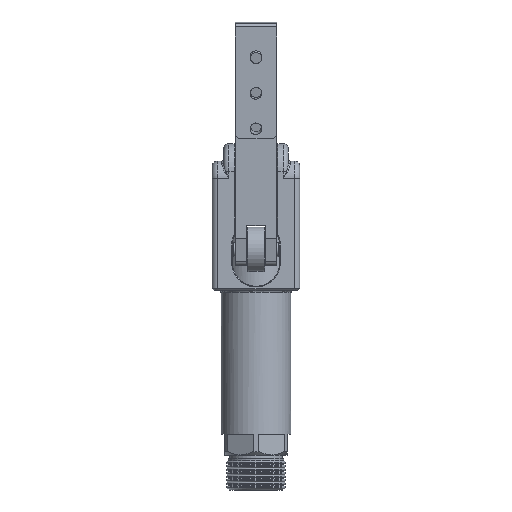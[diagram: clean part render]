
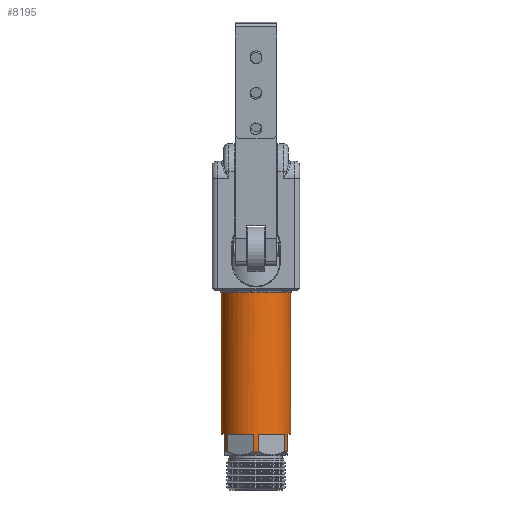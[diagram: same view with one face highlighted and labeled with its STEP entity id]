
A CAD part, front view. The second image highlights one B-rep face of the part: STEP entity #8195.
In plain terms, the highlighted cylindrical face has radius 10 mm (diameter 20 mm), a full revolution.
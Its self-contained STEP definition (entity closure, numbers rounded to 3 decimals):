
#1505=LINE('',#32190,#4221);
#1507=LINE('',#32194,#4223);
#1508=LINE('',#32201,#4224);
#1510=LINE('',#32205,#4226);
#1511=LINE('',#32226,#4227);
#1513=LINE('',#32230,#4229);
#1514=LINE('',#32232,#4230);
#1516=LINE('',#32236,#4232);
#1517=LINE('',#32238,#4233);
#1519=LINE('',#32242,#4235);
#1520=LINE('',#32248,#4236);
#1522=LINE('',#32252,#4238);
#4221=VECTOR('',#26034,1.);
#4223=VECTOR('',#26036,1.);
#4224=VECTOR('',#26039,1.);
#4226=VECTOR('',#26041,1.);
#4227=VECTOR('',#26052,1.);
#4229=VECTOR('',#26054,1.);
#4230=VECTOR('',#26057,1.);
#4232=VECTOR('',#26059,1.);
#4233=VECTOR('',#26062,1.);
#4235=VECTOR('',#26064,1.);
#4236=VECTOR('',#26075,1.);
#4238=VECTOR('',#26077,1.);
#8195=ADVANCED_FACE('',(#9583,#9584),#9377,.T.);
#9377=CYLINDRICAL_SURFACE('',#24450,10.);
#9583=FACE_BOUND('',#10054,.T.);
#9584=FACE_BOUND('',#10055,.T.);
#10054=EDGE_LOOP('',(#12009));
#10055=EDGE_LOOP('',(#12010,#12011,#12012,#12013,#12014,#12015,#12016,#12017,
#12018,#12019,#12020,#12021,#12022,#12023,#12024,#12025,#12026,#12027,#12028,
#12029,#12030,#12031,#12032,#12033));
#12009=ORIENTED_EDGE('',*,*,#20720,.T.);
#12010=ORIENTED_EDGE('',*,*,#20424,.T.);
#12011=ORIENTED_EDGE('',*,*,#20406,.F.);
#12012=ORIENTED_EDGE('',*,*,#20410,.F.);
#12013=ORIENTED_EDGE('',*,*,#20427,.T.);
#12014=ORIENTED_EDGE('',*,*,#20431,.T.);
#12015=ORIENTED_EDGE('',*,*,#20425,.T.);
#12016=ORIENTED_EDGE('',*,*,#20413,.F.);
#12017=ORIENTED_EDGE('',*,*,#20416,.F.);
#12018=ORIENTED_EDGE('',*,*,#20428,.T.);
#12019=ORIENTED_EDGE('',*,*,#20414,.F.);
#12020=ORIENTED_EDGE('',*,*,#20395,.T.);
#12021=ORIENTED_EDGE('',*,*,#20419,.F.);
#12022=ORIENTED_EDGE('',*,*,#20429,.T.);
#12023=ORIENTED_EDGE('',*,*,#20417,.F.);
#12024=ORIENTED_EDGE('',*,*,#20398,.T.);
#12025=ORIENTED_EDGE('',*,*,#20422,.F.);
#12026=ORIENTED_EDGE('',*,*,#20430,.T.);
#12027=ORIENTED_EDGE('',*,*,#20420,.F.);
#12028=ORIENTED_EDGE('',*,*,#20401,.T.);
#12029=ORIENTED_EDGE('',*,*,#20404,.F.);
#12030=ORIENTED_EDGE('',*,*,#20423,.T.);
#12031=ORIENTED_EDGE('',*,*,#20402,.F.);
#12032=ORIENTED_EDGE('',*,*,#20390,.T.);
#12033=ORIENTED_EDGE('',*,*,#20408,.F.);
#18124=VERTEX_POINT('',#32147);
#18125=VERTEX_POINT('',#32149);
#18127=VERTEX_POINT('',#32158);
#18128=VERTEX_POINT('',#32163);
#18129=VERTEX_POINT('',#32170);
#18130=VERTEX_POINT('',#32175);
#18131=VERTEX_POINT('',#32182);
#18132=VERTEX_POINT('',#32187);
#18133=VERTEX_POINT('',#32191);
#18134=VERTEX_POINT('',#32193);
#18135=VERTEX_POINT('',#32200);
#18136=VERTEX_POINT('',#32202);
#18137=VERTEX_POINT('',#32204);
#18138=VERTEX_POINT('',#32211);
#18139=VERTEX_POINT('',#32218);
#18140=VERTEX_POINT('',#32223);
#18141=VERTEX_POINT('',#32227);
#18142=VERTEX_POINT('',#32229);
#18143=VERTEX_POINT('',#32233);
#18144=VERTEX_POINT('',#32235);
#18145=VERTEX_POINT('',#32239);
#18146=VERTEX_POINT('',#32241);
#18147=VERTEX_POINT('',#32249);
#18148=VERTEX_POINT('',#32251);
#18329=VERTEX_POINT('',#33611);
#20390=EDGE_CURVE('',#18125,#18124,#23766,.T.);
#20395=EDGE_CURVE('',#18127,#18128,#23768,.T.);
#20398=EDGE_CURVE('',#18129,#18130,#23769,.T.);
#20401=EDGE_CURVE('',#18131,#18132,#23770,.T.);
#20402=EDGE_CURVE('',#18125,#18133,#1505,.T.);
#20404=EDGE_CURVE('',#18134,#18132,#1507,.T.);
#20406=EDGE_CURVE('',#18135,#18136,#1508,.T.);
#20408=EDGE_CURVE('',#18137,#18124,#1510,.T.);
#20410=EDGE_CURVE('',#18138,#18135,#23771,.T.);
#20413=EDGE_CURVE('',#18140,#18139,#23772,.T.);
#20414=EDGE_CURVE('',#18127,#18141,#1511,.T.);
#20416=EDGE_CURVE('',#18142,#18140,#1513,.T.);
#20417=EDGE_CURVE('',#18129,#18143,#1514,.T.);
#20419=EDGE_CURVE('',#18144,#18128,#1516,.T.);
#20420=EDGE_CURVE('',#18131,#18145,#1517,.T.);
#20422=EDGE_CURVE('',#18146,#18130,#1519,.T.);
#20423=EDGE_CURVE('',#18134,#18133,#23773,.T.);
#20424=EDGE_CURVE('',#18137,#18136,#23774,.T.);
#20425=EDGE_CURVE('',#18147,#18139,#1520,.T.);
#20427=EDGE_CURVE('',#18138,#18148,#1522,.T.);
#20428=EDGE_CURVE('',#18142,#18141,#23775,.T.);
#20429=EDGE_CURVE('',#18144,#18143,#23776,.T.);
#20430=EDGE_CURVE('',#18146,#18145,#23777,.T.);
#20431=EDGE_CURVE('',#18148,#18147,#23778,.T.);
#20720=EDGE_CURVE('',#18329,#18329,#23874,.T.);
#23766=CIRCLE('',#24215,10.);
#23768=CIRCLE('',#24218,10.);
#23769=CIRCLE('',#24220,10.);
#23770=CIRCLE('',#24222,10.);
#23771=CIRCLE('',#24226,10.);
#23772=CIRCLE('',#24228,10.);
#23773=CIRCLE('',#24233,10.);
#23774=CIRCLE('',#24235,10.);
#23775=CIRCLE('',#24238,10.);
#23776=CIRCLE('',#24240,10.);
#23777=CIRCLE('',#24242,10.);
#23778=CIRCLE('',#24244,10.);
#23874=CIRCLE('',#24448,10.);
#24215=AXIS2_PLACEMENT_3D('',#32148,#26015,#26016);
#24218=AXIS2_PLACEMENT_3D('',#32164,#26022,#26023);
#24220=AXIS2_PLACEMENT_3D('',#32176,#26026,#26027);
#24222=AXIS2_PLACEMENT_3D('',#32188,#26030,#26031);
#24226=AXIS2_PLACEMENT_3D('',#32212,#26044,#26045);
#24228=AXIS2_PLACEMENT_3D('',#32224,#26048,#26049);
#24233=AXIS2_PLACEMENT_3D('',#32244,#26067,#26068);
#24235=AXIS2_PLACEMENT_3D('',#32246,#26071,#26072);
#24238=AXIS2_PLACEMENT_3D('',#32254,#26080,#26081);
#24240=AXIS2_PLACEMENT_3D('',#32256,#26084,#26085);
#24242=AXIS2_PLACEMENT_3D('',#32258,#26088,#26089);
#24244=AXIS2_PLACEMENT_3D('',#32260,#26092,#26093);
#24448=AXIS2_PLACEMENT_3D('',#33610,#26642,#26643);
#24450=AXIS2_PLACEMENT_3D('',#33613,#26646,#26647);
#26015=DIRECTION('',(0.,0.,1.));
#26016=DIRECTION('',(-1.,0.,0.));
#26022=DIRECTION('',(0.,0.,1.));
#26023=DIRECTION('',(-1.,0.,0.));
#26026=DIRECTION('',(0.,0.,1.));
#26027=DIRECTION('',(-1.,0.,0.));
#26030=DIRECTION('',(0.,0.,1.));
#26031=DIRECTION('',(-1.,0.,0.));
#26034=DIRECTION('',(0.,0.,1.));
#26036=DIRECTION('',(0.,0.,-1.));
#26039=DIRECTION('',(0.,0.,1.));
#26041=DIRECTION('',(0.,0.,-1.));
#26044=DIRECTION('',(0.,0.,-1.));
#26045=DIRECTION('',(1.,0.,0.));
#26048=DIRECTION('',(0.,0.,-1.));
#26049=DIRECTION('',(1.,0.,0.));
#26052=DIRECTION('',(0.,0.,1.));
#26054=DIRECTION('',(0.,0.,-1.));
#26057=DIRECTION('',(0.,0.,1.));
#26059=DIRECTION('',(0.,0.,-1.));
#26062=DIRECTION('',(0.,0.,1.));
#26064=DIRECTION('',(0.,0.,-1.));
#26067=DIRECTION('',(0.,0.,1.));
#26068=DIRECTION('',(-1.,0.,0.));
#26071=DIRECTION('',(0.,0.,1.));
#26072=DIRECTION('',(-1.,0.,0.));
#26075=DIRECTION('',(0.,0.,-1.));
#26077=DIRECTION('',(0.,0.,1.));
#26080=DIRECTION('',(0.,0.,1.));
#26081=DIRECTION('',(-1.,0.,0.));
#26084=DIRECTION('',(0.,0.,1.));
#26085=DIRECTION('',(-1.,0.,0.));
#26088=DIRECTION('',(0.,0.,1.));
#26089=DIRECTION('',(-1.,0.,0.));
#26092=DIRECTION('',(0.,0.,1.));
#26093=DIRECTION('',(-1.,0.,0.));
#26642=DIRECTION('',(0.,0.,-1.));
#26643=DIRECTION('',(-1.,0.,0.));
#26646=DIRECTION('',(0.,0.,-1.));
#26647=DIRECTION('',(1.,0.,0.));
#32147=CARTESIAN_POINT('',(-13.483,7.621,43.));
#32148=CARTESIAN_POINT('',(-4.483,3.262,43.));
#32149=CARTESIAN_POINT('',(-12.758,8.877,43.));
#32158=CARTESIAN_POINT('',(3.792,-2.353,44.));
#32163=CARTESIAN_POINT('',(4.517,-1.097,44.));
#32164=CARTESIAN_POINT('',(-4.483,3.262,44.));
#32170=CARTESIAN_POINT('',(4.517,7.621,44.));
#32175=CARTESIAN_POINT('',(3.792,8.877,44.));
#32176=CARTESIAN_POINT('',(-4.483,3.262,44.));
#32182=CARTESIAN_POINT('',(-3.758,13.236,44.));
#32187=CARTESIAN_POINT('',(-5.208,13.236,44.));
#32188=CARTESIAN_POINT('',(-4.483,3.262,44.));
#32190=CARTESIAN_POINT('',(-12.758,8.877,33.));
#32191=CARTESIAN_POINT('',(-12.758,8.877,49.));
#32193=CARTESIAN_POINT('',(-5.208,13.236,49.));
#32194=CARTESIAN_POINT('',(-5.208,13.236,33.));
#32200=CARTESIAN_POINT('',(-13.483,-1.097,44.));
#32201=CARTESIAN_POINT('',(-13.483,-1.097,33.));
#32202=CARTESIAN_POINT('',(-13.483,-1.097,49.));
#32204=CARTESIAN_POINT('',(-13.483,7.621,49.));
#32205=CARTESIAN_POINT('',(-13.483,7.621,33.));
#32211=CARTESIAN_POINT('',(-12.758,-2.353,44.));
#32212=CARTESIAN_POINT('',(-4.483,3.262,44.));
#32218=CARTESIAN_POINT('',(-5.208,-6.712,44.));
#32223=CARTESIAN_POINT('',(-3.758,-6.712,44.));
#32224=CARTESIAN_POINT('',(-4.483,3.262,44.));
#32226=CARTESIAN_POINT('',(3.792,-2.353,33.));
#32227=CARTESIAN_POINT('',(3.792,-2.353,49.));
#32229=CARTESIAN_POINT('',(-3.758,-6.712,49.));
#32230=CARTESIAN_POINT('',(-3.758,-6.712,33.));
#32232=CARTESIAN_POINT('',(4.517,7.621,33.));
#32233=CARTESIAN_POINT('',(4.517,7.621,49.));
#32235=CARTESIAN_POINT('',(4.517,-1.097,49.));
#32236=CARTESIAN_POINT('',(4.517,-1.097,33.));
#32238=CARTESIAN_POINT('',(-3.758,13.236,33.));
#32239=CARTESIAN_POINT('',(-3.758,13.236,49.));
#32241=CARTESIAN_POINT('',(3.792,8.877,49.));
#32242=CARTESIAN_POINT('',(3.792,8.877,33.));
#32244=CARTESIAN_POINT('',(-4.483,3.262,49.));
#32246=CARTESIAN_POINT('',(-4.483,3.262,49.));
#32248=CARTESIAN_POINT('',(-5.208,-6.712,63.));
#32249=CARTESIAN_POINT('',(-5.208,-6.712,49.));
#32251=CARTESIAN_POINT('',(-12.758,-2.353,49.));
#32252=CARTESIAN_POINT('',(-12.758,-2.353,63.));
#32254=CARTESIAN_POINT('',(-4.483,3.262,49.));
#32256=CARTESIAN_POINT('',(-4.483,3.262,49.));
#32258=CARTESIAN_POINT('',(-4.483,3.262,49.));
#32260=CARTESIAN_POINT('',(-4.483,3.262,49.));
#33610=CARTESIAN_POINT('',(-4.483,3.262,89.5));
#33611=CARTESIAN_POINT('',(-14.483,3.262,89.5));
#33613=CARTESIAN_POINT('',(-4.483,3.262,90.));
